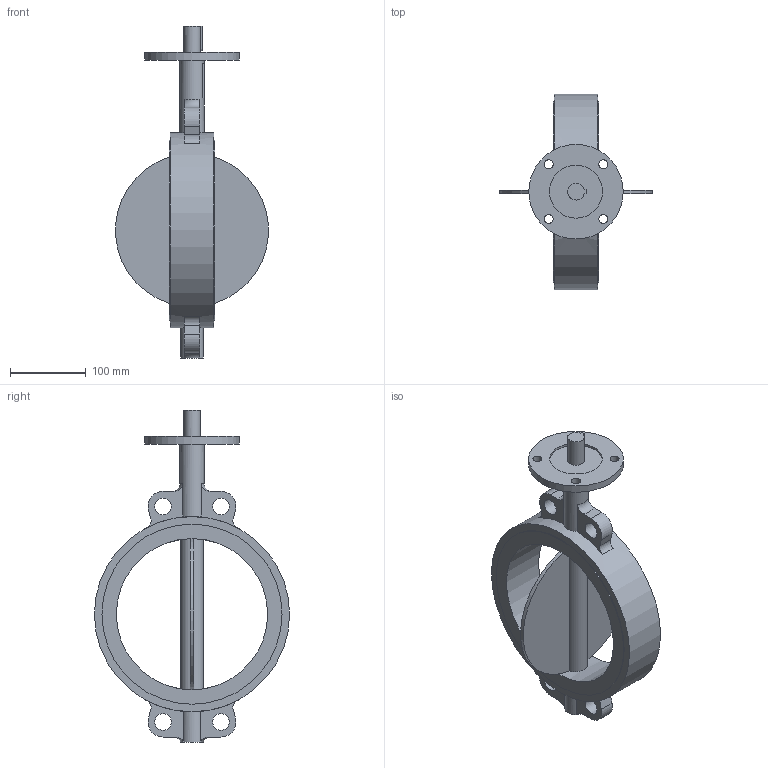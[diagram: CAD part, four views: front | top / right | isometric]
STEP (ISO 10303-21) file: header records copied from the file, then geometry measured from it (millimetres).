
FILE_DESCRIPTION(('STEP AP203'), '1');
FILE_NAME('青蜮铕 017W.Y_DN200_PN16', '', ('UNSPECIFIED'), ('UNSPECIFIED'), 'ASCON STEP Converter 1.6', 'ASCON Math Kernel', '');
FILE_SCHEMA(('CONFIG_CONTROL_DESIGN'));
Length unit declared in the file: millimetre
Bounding box: 201.71 x 258.2 x 439 mm (x, y, z)
Volume: 1838092.4 mm3; surface area: 259133.3 mm2
Topology: 1 solids, 1 shells, 91 faces, 228 edges, 150 vertices
Faces by surface type: plane 48, cylinder 39, torus 4
Full cylindrical faces by diameter (mm): 12 x4, 22 x4, 22.1 x1, 32 x1, 70 x1, 125 x1, 200 x1, 238.2 x2, 258.2 x1
Entity records: 4792 total; most frequent: CARTESIAN_POINT 1818, DIRECTION 464, ORIENTED_EDGE 424, EDGE_CURVE 212, AXIS2_PLACEMENT_3D 182, VERTEX_POINT 150, EDGE_LOOP 138, FACE_BOUND 108
